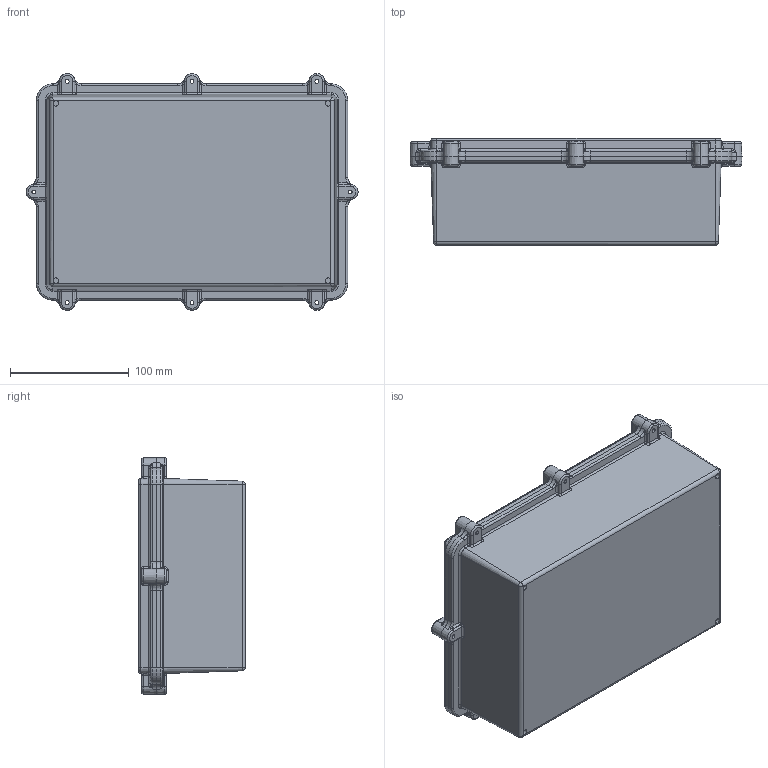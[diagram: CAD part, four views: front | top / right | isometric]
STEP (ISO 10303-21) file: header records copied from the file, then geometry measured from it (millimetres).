
FILE_DESCRIPTION (( 'STEP AP203' ), '1' );
FILE_NAME ('SE-578-0-0.STEP', '2018-10-01T06:00:09', ( '' ), ( '' ), 'SwSTEP 2.0', 'SolidWorks 2018', '' );
FILE_SCHEMA (( 'CONFIG_CONTROL_DESIGN' ));
Length unit declared in the file: millimetre
Products named in the file (3): SE-578-0-0; SE-570-P-2; SE-578-P-1
Assembly tree (2 placements, depth 2):
  SE-578-0-0
    SE-578-P-1
    SE-570-P-2
Bounding box: 279.15 x 89.9 x 199.2 mm (x, y, z)
Volume: 413796.5 mm3; surface area: 346705.1 mm2
Topology: 2 solids, 2 shells, 826 faces, 2013 edges, 1174 vertices
Faces by surface type: cylinder 248, plane 215, bspline 180, cone 107, torus 44, sphere 32
Entity records: 31112 total; most frequent: CARTESIAN_POINT 12742, ORIENTED_EDGE 3954, DIRECTION 3605, EDGE_CURVE 1977, AXIS2_PLACEMENT_3D 1385, VERTEX_POINT 1174, EDGE_LOOP 877, LINE 835
